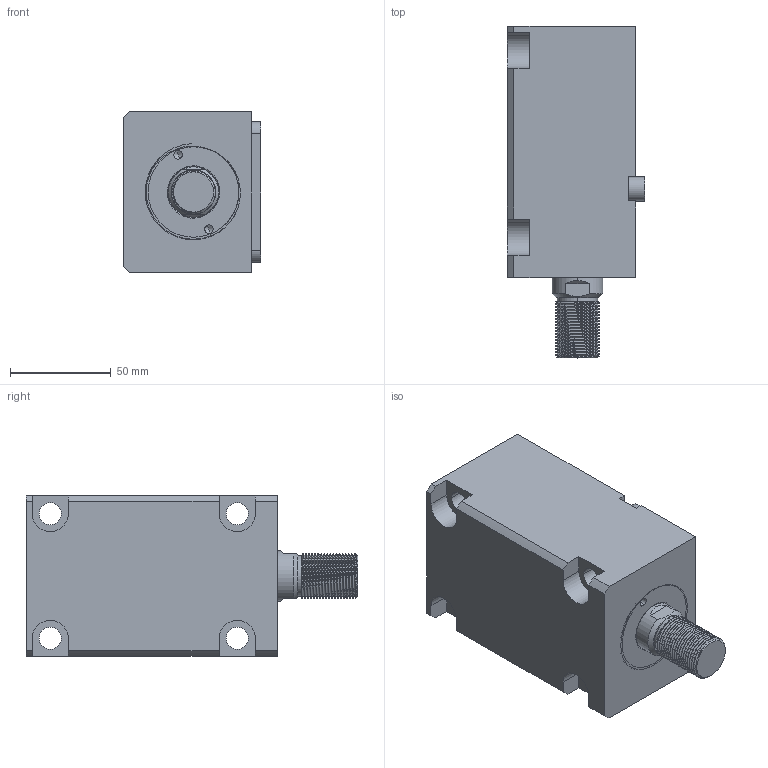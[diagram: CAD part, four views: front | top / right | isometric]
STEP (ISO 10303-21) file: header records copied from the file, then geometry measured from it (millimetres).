
FILE_DESCRIPTION (( 'STEP AP214' ), '1' );
FILE_NAME ('chtb-lam40x70w_asm.STEP', '2018-05-30T03:01:09', ( 'Windows' ), ( 'Microsoft' ), 'SwSTEP 2.0', 'SolidWorks 2015', '' );
FILE_SCHEMA (( 'AUTOMOTIVE_DESIGN' ));
Length unit declared in the file: millimetre
Products named in the file (5): CHTB-SD40X70WHSG; CHTB-SD40QG; CHTB-LAM40X70NBT; CHTB-LA40PJ; chtb-lam40x70w_asm
Assembly tree (4 placements, depth 2):
  chtb-lam40x70w_asm
    CHTB-LA40PJ
    CHTB-LAM40X70NBT
    CHTB-SD40QG
    CHTB-SD40X70WHSG
Bounding box: 68.5 x 165 x 80 mm (x, y, z)
Volume: 566404.3 mm3; surface area: 101069.1 mm2
Topology: 4 solids, 5 shells, 199 faces, 547 edges, 365 vertices
Faces by surface type: cylinder 111, plane 50, bspline 16, torus 12, cone 10
Entity records: 13609 total; most frequent: CARTESIAN_POINT 8674, ORIENTED_EDGE 1082, DIRECTION 894, EDGE_CURVE 541, VERTEX_POINT 365, AXIS2_PLACEMENT_3D 349, EDGE_LOOP 226, FACE_OUTER_BOUND 199
